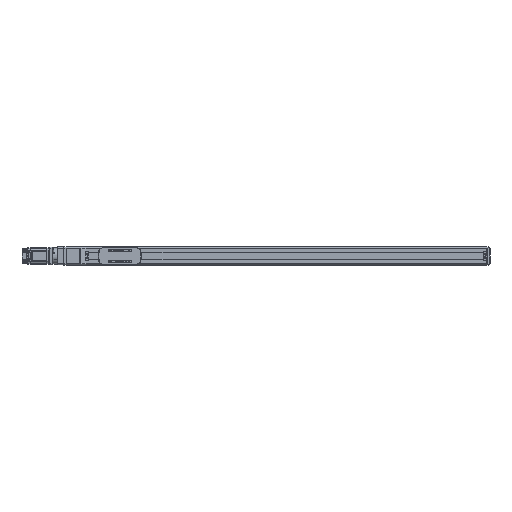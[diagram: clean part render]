
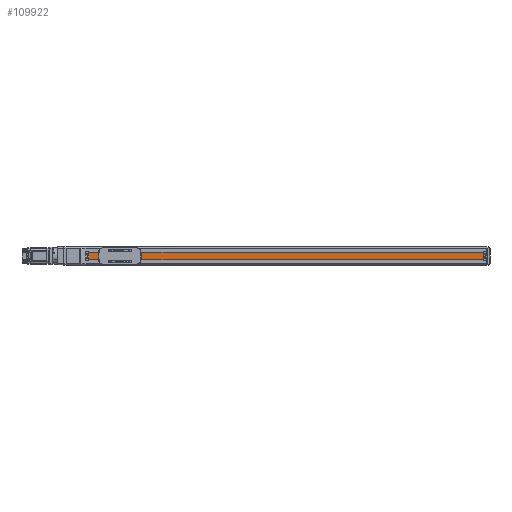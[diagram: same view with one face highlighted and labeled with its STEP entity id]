
A CAD part, top view. The second image highlights one B-rep face of the part: STEP entity #109922.
In plain terms, the highlighted planar face has unit normal (0, 0, 1) as drawn and (0, 1, 0) by its records, which use the part's own axes.
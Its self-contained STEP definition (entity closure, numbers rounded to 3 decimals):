
#109922 = ADVANCED_FACE('',(#109923),#109937,.T.);
#109923 = FACE_BOUND('',#109924,.T.);
#109924 = EDGE_LOOP('',(#109925,#109960,#109988,#110016));
#109925 = ORIENTED_EDGE('',*,*,#109926,.F.);
#109926 = EDGE_CURVE('',#109927,#109929,#109931,.T.);
#109927 = VERTEX_POINT('',#109928);
#109928 = CARTESIAN_POINT('',(-1380.5,18.,-13.));
#109929 = VERTEX_POINT('',#109930);
#109930 = CARTESIAN_POINT('',(-21.5,18.,-13.));
#109931 = SURFACE_CURVE('',#109932,(#109936,#109948),.PCURVE_S1.);
#109932 = LINE('',#109933,#109934);
#109933 = CARTESIAN_POINT('',(-1380.5,18.,-13.));
#109934 = VECTOR('',#109935,1.);
#109935 = DIRECTION('',(1.,0.,0.));
#109936 = PCURVE('',#109937,#109942);
#109937 = PLANE('',#109938);
#109938 = AXIS2_PLACEMENT_3D('',#109939,#109940,#109941);
#109939 = CARTESIAN_POINT('',(-1390.5,18.,-26.583));
#109940 = DIRECTION('',(0.,1.,0.));
#109941 = DIRECTION('',(0.,-0.,1.));
#109942 = DEFINITIONAL_REPRESENTATION('',(#109943),#109947);
#109943 = LINE('',#109944,#109945);
#109944 = CARTESIAN_POINT('',(13.583,10.));
#109945 = VECTOR('',#109946,1.);
#109946 = DIRECTION('',(0.,1.));
#109947 = ( GEOMETRIC_REPRESENTATION_CONTEXT(2) 
PARAMETRIC_REPRESENTATION_CONTEXT() REPRESENTATION_CONTEXT('2D SPACE',''
  ) );
#109948 = PCURVE('',#109949,#109954);
#109949 = PLANE('',#109950);
#109950 = AXIS2_PLACEMENT_3D('',#109951,#109952,#109953);
#109951 = CARTESIAN_POINT('',(-1380.5,18.,-13.));
#109952 = DIRECTION('',(0.,0.,1.));
#109953 = DIRECTION('',(1.,0.,-0.));
#109954 = DEFINITIONAL_REPRESENTATION('',(#109955),#109959);
#109955 = LINE('',#109956,#109957);
#109956 = CARTESIAN_POINT('',(0.,0.));
#109957 = VECTOR('',#109958,1.);
#109958 = DIRECTION('',(1.,0.));
#109959 = ( GEOMETRIC_REPRESENTATION_CONTEXT(2) 
PARAMETRIC_REPRESENTATION_CONTEXT() REPRESENTATION_CONTEXT('2D SPACE',''
  ) );
#109960 = ORIENTED_EDGE('',*,*,#109961,.T.);
#109961 = EDGE_CURVE('',#109927,#109962,#109964,.T.);
#109962 = VERTEX_POINT('',#109963);
#109963 = CARTESIAN_POINT('',(-1380.5,18.,13.));
#109964 = SURFACE_CURVE('',#109965,(#109969,#109976),.PCURVE_S1.);
#109965 = LINE('',#109966,#109967);
#109966 = CARTESIAN_POINT('',(-1380.5,18.,-26.583));
#109967 = VECTOR('',#109968,1.);
#109968 = DIRECTION('',(0.,0.,1.));
#109969 = PCURVE('',#109937,#109970);
#109970 = DEFINITIONAL_REPRESENTATION('',(#109971),#109975);
#109971 = LINE('',#109972,#109973);
#109972 = CARTESIAN_POINT('',(0.,10.));
#109973 = VECTOR('',#109974,1.);
#109974 = DIRECTION('',(1.,0.));
#109975 = ( GEOMETRIC_REPRESENTATION_CONTEXT(2) 
PARAMETRIC_REPRESENTATION_CONTEXT() REPRESENTATION_CONTEXT('2D SPACE',''
  ) );
#109976 = PCURVE('',#109977,#109982);
#109977 = PLANE('',#109978);
#109978 = AXIS2_PLACEMENT_3D('',#109979,#109980,#109981);
#109979 = CARTESIAN_POINT('',(-1380.5,0.,0.));
#109980 = DIRECTION('',(1.,0.,0.));
#109981 = DIRECTION('',(0.,0.,-1.));
#109982 = DEFINITIONAL_REPRESENTATION('',(#109983),#109987);
#109983 = LINE('',#109984,#109985);
#109984 = CARTESIAN_POINT('',(26.583,18.));
#109985 = VECTOR('',#109986,1.);
#109986 = DIRECTION('',(-1.,0.));
#109987 = ( GEOMETRIC_REPRESENTATION_CONTEXT(2) 
PARAMETRIC_REPRESENTATION_CONTEXT() REPRESENTATION_CONTEXT('2D SPACE',''
  ) );
#109988 = ORIENTED_EDGE('',*,*,#109989,.T.);
#109989 = EDGE_CURVE('',#109962,#109990,#109992,.T.);
#109990 = VERTEX_POINT('',#109991);
#109991 = CARTESIAN_POINT('',(-21.5,18.,13.));
#109992 = SURFACE_CURVE('',#109993,(#109997,#110004),.PCURVE_S1.);
#109993 = LINE('',#109994,#109995);
#109994 = CARTESIAN_POINT('',(-1380.5,18.,13.));
#109995 = VECTOR('',#109996,1.);
#109996 = DIRECTION('',(1.,0.,0.));
#109997 = PCURVE('',#109937,#109998);
#109998 = DEFINITIONAL_REPRESENTATION('',(#109999),#110003);
#109999 = LINE('',#110000,#110001);
#110000 = CARTESIAN_POINT('',(39.583,10.));
#110001 = VECTOR('',#110002,1.);
#110002 = DIRECTION('',(0.,1.));
#110003 = ( GEOMETRIC_REPRESENTATION_CONTEXT(2) 
PARAMETRIC_REPRESENTATION_CONTEXT() REPRESENTATION_CONTEXT('2D SPACE',''
  ) );
#110004 = PCURVE('',#110005,#110010);
#110005 = PLANE('',#110006);
#110006 = AXIS2_PLACEMENT_3D('',#110007,#110008,#110009);
#110007 = CARTESIAN_POINT('',(-1380.5,15.,13.));
#110008 = DIRECTION('',(0.,0.,-1.));
#110009 = DIRECTION('',(-1.,0.,0.));
#110010 = DEFINITIONAL_REPRESENTATION('',(#110011),#110015);
#110011 = LINE('',#110012,#110013);
#110012 = CARTESIAN_POINT('',(0.,3.));
#110013 = VECTOR('',#110014,1.);
#110014 = DIRECTION('',(-1.,0.));
#110015 = ( GEOMETRIC_REPRESENTATION_CONTEXT(2) 
PARAMETRIC_REPRESENTATION_CONTEXT() REPRESENTATION_CONTEXT('2D SPACE',''
  ) );
#110016 = ORIENTED_EDGE('',*,*,#110017,.T.);
#110017 = EDGE_CURVE('',#109990,#109929,#110018,.T.);
#110018 = SURFACE_CURVE('',#110019,(#110023,#110030),.PCURVE_S1.);
#110019 = LINE('',#110020,#110021);
#110020 = CARTESIAN_POINT('',(-21.5,18.,-26.583));
#110021 = VECTOR('',#110022,1.);
#110022 = DIRECTION('',(0.,0.,-1.));
#110023 = PCURVE('',#109937,#110024);
#110024 = DEFINITIONAL_REPRESENTATION('',(#110025),#110029);
#110025 = LINE('',#110026,#110027);
#110026 = CARTESIAN_POINT('',(0.,1369.));
#110027 = VECTOR('',#110028,1.);
#110028 = DIRECTION('',(-1.,0.));
#110029 = ( GEOMETRIC_REPRESENTATION_CONTEXT(2) 
PARAMETRIC_REPRESENTATION_CONTEXT() REPRESENTATION_CONTEXT('2D SPACE',''
  ) );
#110030 = PCURVE('',#110031,#110036);
#110031 = PLANE('',#110032);
#110032 = AXIS2_PLACEMENT_3D('',#110033,#110034,#110035);
#110033 = CARTESIAN_POINT('',(-21.5,0.,0.));
#110034 = DIRECTION('',(1.,0.,0.));
#110035 = DIRECTION('',(0.,0.,-1.));
#110036 = DEFINITIONAL_REPRESENTATION('',(#110037),#110041);
#110037 = LINE('',#110038,#110039);
#110038 = CARTESIAN_POINT('',(26.583,18.));
#110039 = VECTOR('',#110040,1.);
#110040 = DIRECTION('',(1.,0.));
#110041 = ( GEOMETRIC_REPRESENTATION_CONTEXT(2) 
PARAMETRIC_REPRESENTATION_CONTEXT() REPRESENTATION_CONTEXT('2D SPACE',''
  ) );
